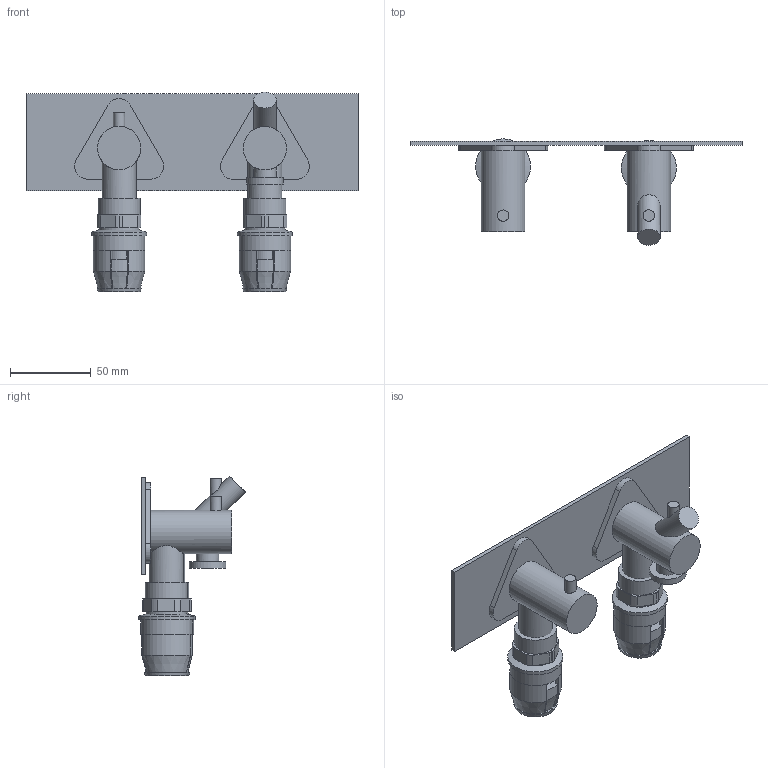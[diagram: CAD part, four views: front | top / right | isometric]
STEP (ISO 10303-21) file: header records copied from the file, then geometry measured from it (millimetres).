
FILE_DESCRIPTION(('STEP AP214'),'1');
FILE_NAME('Instaset_7879.STP','2025-09-23T13:41:17',(' '),(' '),'Spatial InterOp 3D',' ',' ');
FILE_SCHEMA(('AUTOMOTIVE_DESIGN { 1 0 10303 214 1 1 1 1 }'));
Length unit declared in the file: millimetre
Products named in the file (1): Quader
Bounding box: 205 x 65.77 x 123.42 mm (x, y, z)
Volume: 172469.5 mm3; surface area: 93526.2 mm2
Topology: 43 solids, 43 shells, 321 faces, 663 edges, 432 vertices
Faces by surface type: plane 200, cylinder 75, cone 44, torus 2
Full cylindrical faces by diameter (mm): 1.72 x2, 7 x2, 10.42 x2, 13 x2, 13.867 x1, 14 x1, 15 x2, 15.76 x2, 20 x2, 20.48 x2, 20.5 x2, 21 x2, 22.622 x1, 25 x2, 26 x2, 26.818 x2, 27.2 x2, 29.8 x2, 31.8 x2, 34 x2
Entity records: 8942 total; most frequent: CARTESIAN_POINT 1758, DIRECTION 1497, ORIENTED_EDGE 1156, EDGE_CURVE 578, AXIS2_PLACEMENT_3D 561, VERTEX_POINT 422, EDGE_LOOP 420, LINE 375
